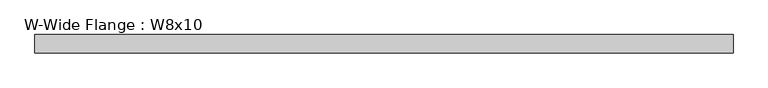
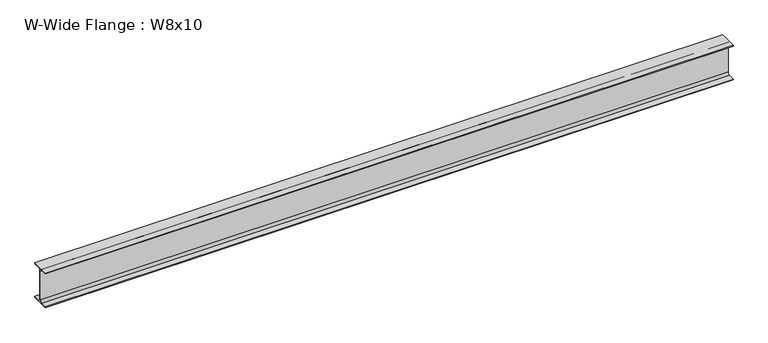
"""IFC4 building model written with IfcOpenShell, lengths in millimetres: beam geometry, W-Wide Flange : W8x10."""

from ifc_helpers import new_model, si_unit, point, frame, frame_2d, origin, place, context, project, spatial, polyline, circle_curve, trimmed, segment, composite_curve, outline, extrude, source, transform, mapped, element, save


def w_wide_flange_w8x10_abd37cec(model_context):
    return source(origin(), model_context, "Body", "SweptSolid", [
        extrude(outline(composite_curve([segment(polyline([(50.038, -94.996), (50.038, -100.203), (-50.038, -100.203), (-50.038, -94.996), (-14.4145, -94.996)]), True, "CONTINUOUS"), segment(trimmed(circle_curve(frame_2d((-14.4145, -82.7405)), 12.2555), [point((-14.4145, -94.996))], [point((-2.159, -82.7405))], True, "CARTESIAN"), True, "CONTINUOUS"), segment(polyline([(-2.159, -82.7405), (-2.159, 82.7405)]), True, "CONTINUOUS"), segment(trimmed(circle_curve(frame_2d((-14.4145, 82.7405)), 12.2555), [point((-2.159, 82.7405))], [point((-14.4145, 94.996))], True, "CARTESIAN"), True, "CONTINUOUS"), segment(polyline([(-14.4145, 94.996), (-50.038, 94.996), (-50.038, 100.203), (50.038, 100.203), (50.038, 94.996), (14.4145, 94.996)]), True, "CONTINUOUS"), segment(trimmed(circle_curve(frame_2d((14.4145, 82.7405)), 12.2555), [point((14.4145, 94.996))], [point((2.159, 82.7405))], True, "CARTESIAN"), True, "CONTINUOUS"), segment(polyline([(2.159, 82.7405), (2.159, -82.7405)]), True, "CONTINUOUS"), segment(trimmed(circle_curve(frame_2d((14.4145, -82.7405)), 12.2555), [point((2.159, -82.7405))], [point((14.4145, -94.996))], True, "CARTESIAN"), True, "CONTINUOUS"), segment(polyline([(14.4145, -94.996), (50.038, -94.996)]), True, "CONTINUOUS")], self_intersect=False)), frame((-1885.95, 0.0, 0.0), z_axis=(1.0, 0.0, 0.0), x_axis=(0.0, 1.0, 0.0)), (0.0, 0.0, 1.0), 3771.9),
    ])


if __name__ == "__main__":
    model = new_model("IFC4")
    model_context = context("Model", 3, world=origin())
    ifc_project = project(units=[si_unit("LENGTHUNIT", "METRE", prefix="MILLI")], contexts=[model_context])
    site = spatial("IfcSite", under=ifc_project)
    building = spatial("IfcBuilding", under=site)
    placement = place(None, origin())
    w_wide_flange_w8x10_shape = w_wide_flange_w8x10_abd37cec(model_context)
    element("IfcBeam", 1, ObjectType="W-Wide Flange : W8x10", at=placement, inside=building, context=model_context, shape_type="MappedRepresentation", body=[
        mapped(w_wide_flange_w8x10_shape, transform((0.0, 0.0, 0.0), x_axis=(1.0, 0.0, 0.0), y_axis=(0.0, 1.0, 0.0), z_axis=(0.0, 0.0, 1.0))),
    ])
    save(model, "model.ifc")
